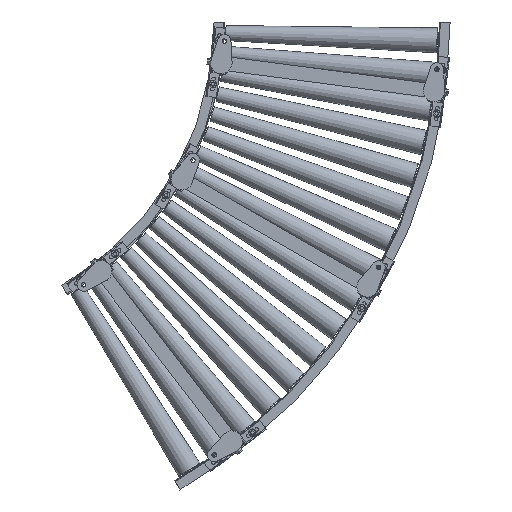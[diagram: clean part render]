
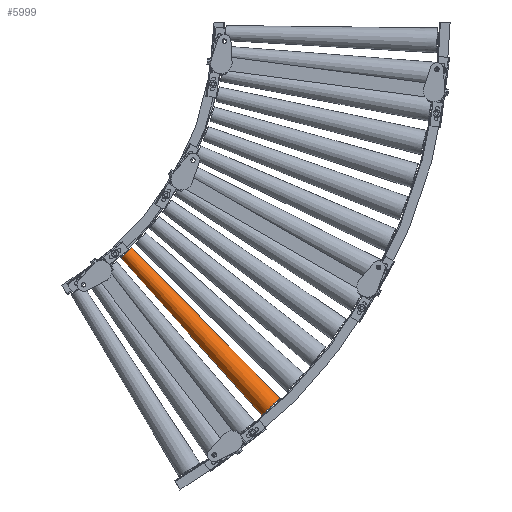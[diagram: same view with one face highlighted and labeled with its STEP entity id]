
A CAD part, front view. The second image highlights one B-rep face of the part: STEP entity #5999.
In plain terms, the highlighted conical face has half-angle 1.35 degrees and reference radius 35.6 mm.
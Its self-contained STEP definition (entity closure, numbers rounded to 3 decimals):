
#3542 = VECTOR ( 'NONE', #105853, 1000. ) ;
#4503 = DIRECTION ( 'NONE',  ( 0.729, 0., 0.685 ) ) ;
#5415 = ORIENTED_EDGE ( 'NONE', *, *, #64063, .T. ) ;
#5999 = ADVANCED_FACE ( 'NONE', ( #93702 ), #84894, .T. ) ;
#14511 = ORIENTED_EDGE ( 'NONE', *, *, #103098, .T. ) ;
#17472 = DIRECTION ( 'NONE',  ( -0.684, 0.024, 0.729 ) ) ;
#27283 = EDGE_CURVE ( 'NONE', #58271, #105972, #134862, .T. ) ;
#27629 = CIRCLE ( 'NONE', #70423, 35.6 ) ;
#28932 = CARTESIAN_POINT ( 'NONE',  ( 619.14, -21.344, -659.317 ) ) ;
#35478 = DIRECTION ( 'NONE',  ( 0.701, -0.024, -0.712 ) ) ;
#37695 = VERTEX_POINT ( 'NONE', #81515 ) ;
#42390 = AXIS2_PLACEMENT_3D ( 'NONE', #75286, #75789, #109735 ) ;
#43436 = AXIS2_PLACEMENT_3D ( 'NONE', #28932, #17472, #4503 ) ;
#58271 = VERTEX_POINT ( 'NONE', #129671 ) ;
#64063 = EDGE_CURVE ( 'NONE', #138023, #37695, #27629, .T. ) ;
#70423 = AXIS2_PLACEMENT_3D ( 'NONE', #106609, #104633, #105150 ) ;
#74161 = CARTESIAN_POINT ( 'NONE',  ( 1007.11, -35.59, -1124.468 ) ) ;
#75286 = CARTESIAN_POINT ( 'NONE',  ( 1033.061, -35.59, -1100.098 ) ) ;
#75789 = DIRECTION ( 'NONE',  ( 0.684, -0.024, -0.729 ) ) ;
#81515 = CARTESIAN_POINT ( 'NONE',  ( 1059.012, -35.59, -1075.728 ) ) ;
#84894 = CONICAL_SURFACE ( 'NONE', #42390, 35.6, 0.024 ) ;
#89020 = VECTOR ( 'NONE', #35478, 1000. ) ;
#92487 = CARTESIAN_POINT ( 'NONE',  ( 1059.012, -35.59, -1075.728 ) ) ;
#93702 = FACE_OUTER_BOUND ( 'NONE', #104884, .T. ) ;
#94889 = CARTESIAN_POINT ( 'NONE',  ( 1007.11, -35.59, -1124.468 ) ) ;
#98273 = EDGE_CURVE ( 'NONE', #105972, #37695, #119431, .T. ) ;
#98387 = LINE ( 'NONE', #94889, #3542 ) ;
#103098 = EDGE_CURVE ( 'NONE', #58271, #138023, #98387, .T. ) ;
#104633 = DIRECTION ( 'NONE',  ( -0.684, 0.024, 0.729 ) ) ;
#104884 = EDGE_LOOP ( 'NONE', ( #145828, #112004, #14511, #5415 ) ) ;
#105150 = DIRECTION ( 'NONE',  ( 0.729, 0., 0.685 ) ) ;
#105853 = DIRECTION ( 'NONE',  ( 0.667, -0.024, -0.745 ) ) ;
#105972 = VERTEX_POINT ( 'NONE', #130808 ) ;
#106609 = CARTESIAN_POINT ( 'NONE',  ( 1033.061, -35.59, -1100.098 ) ) ;
#109735 = DIRECTION ( 'NONE',  ( -0.729, 0., -0.685 ) ) ;
#112004 = ORIENTED_EDGE ( 'NONE', *, *, #27283, .F. ) ;
#119431 = LINE ( 'NONE', #92487, #89020 ) ;
#129671 = CARTESIAN_POINT ( 'NONE',  ( 603.576, -21.344, -673.932 ) ) ;
#130808 = CARTESIAN_POINT ( 'NONE',  ( 634.703, -21.344, -644.702 ) ) ;
#134862 = CIRCLE ( 'NONE', #43436, 21.35 ) ;
#138023 = VERTEX_POINT ( 'NONE', #74161 ) ;
#145828 = ORIENTED_EDGE ( 'NONE', *, *, #98273, .F. ) ;
